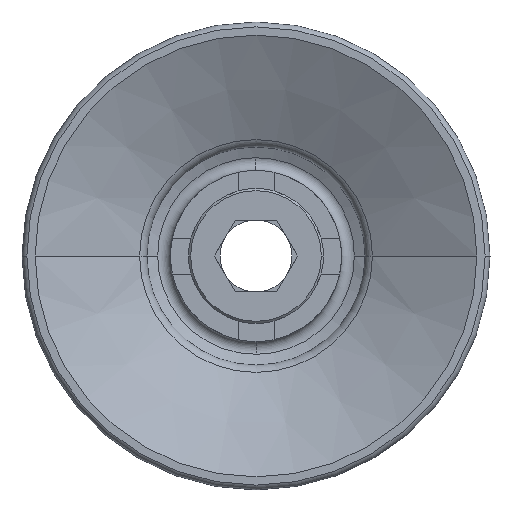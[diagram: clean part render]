
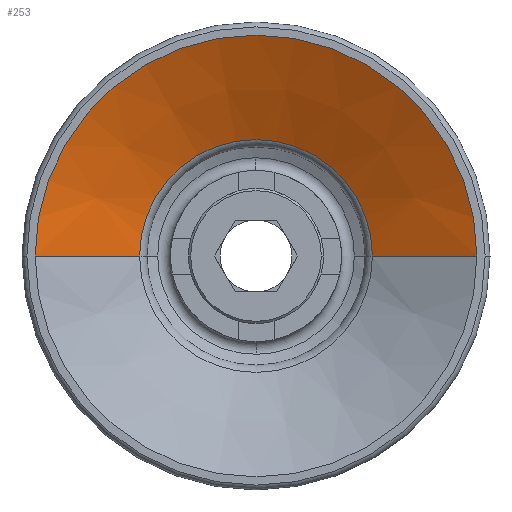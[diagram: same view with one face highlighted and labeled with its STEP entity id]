
A CAD part, front view. The second image highlights one B-rep face of the part: STEP entity #253.
In plain terms, the highlighted conical face has half-angle 62.925 degrees and reference radius 6.466 mm.
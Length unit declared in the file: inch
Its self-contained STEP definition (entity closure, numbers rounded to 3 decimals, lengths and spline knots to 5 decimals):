
#158 = AXIS2_PLACEMENT_3D ( 'NONE', #2629, #475, #2917 ) ;
#171 = DIRECTION ( 'NONE',  ( 1., 0., 0. ) ) ;
#218 = LINE ( 'NONE', #1621, #1737 ) ;
#253 = ADVANCED_FACE ( 'NONE', ( #4147 ), #1157, .F. ) ;
#304 = EDGE_CURVE ( 'NONE', #1558, #1459, #218, .T. ) ;
#398 = ORIENTED_EDGE ( 'NONE', *, *, #2449, .F. ) ;
#475 = DIRECTION ( 'NONE',  ( 0., 0., -1. ) ) ;
#484 = CIRCLE ( 'NONE', #2990, 0.48308 ) ;
#592 = CARTESIAN_POINT ( 'NONE',  ( 0.25458, 0., -0.41539 ) ) ;
#1157 = CONICAL_SURFACE ( 'NONE', #3017, 0.25458, 1.098 ) ;
#1459 = VERTEX_POINT ( 'NONE', #2771 ) ;
#1461 = DIRECTION ( 'NONE',  ( -0.89, 0., -0.455 ) ) ;
#1558 = VERTEX_POINT ( 'NONE', #592 ) ;
#1621 = CARTESIAN_POINT ( 'NONE',  ( 0.25458, 0., -0.41539 ) ) ;
#1693 = CARTESIAN_POINT ( 'NONE',  ( -0.25458, 0., -0.41539 ) ) ;
#1737 = VECTOR ( 'NONE', #3673, 39.37008 ) ;
#1774 = ORIENTED_EDGE ( 'NONE', *, *, #304, .T. ) ;
#1859 = CARTESIAN_POINT ( 'NONE',  ( 0., 0., -0.53219 ) ) ;
#1925 = EDGE_CURVE ( 'NONE', #1558, #3764, #3892, .T. ) ;
#2431 = EDGE_LOOP ( 'NONE', ( #3312, #1774, #398, #2444 ) ) ;
#2434 = CARTESIAN_POINT ( 'NONE',  ( 0., 0., -0.41539 ) ) ;
#2444 = ORIENTED_EDGE ( 'NONE', *, *, #3945, .F. ) ;
#2449 = EDGE_CURVE ( 'NONE', #2473, #1459, #484, .T. ) ;
#2473 = VERTEX_POINT ( 'NONE', #2556 ) ;
#2556 = CARTESIAN_POINT ( 'NONE',  ( -0.48308, 0., -0.53219 ) ) ;
#2629 = CARTESIAN_POINT ( 'NONE',  ( 0., 0., -0.41539 ) ) ;
#2771 = CARTESIAN_POINT ( 'NONE',  ( 0.48308, 0., -0.53219 ) ) ;
#2794 = LINE ( 'NONE', #3095, #4224 ) ;
#2917 = DIRECTION ( 'NONE',  ( 1., 0., 0. ) ) ;
#2990 = AXIS2_PLACEMENT_3D ( 'NONE', #1859, #3222, #171 ) ;
#3017 = AXIS2_PLACEMENT_3D ( 'NONE', #2434, #3800, #3730 ) ;
#3095 = CARTESIAN_POINT ( 'NONE',  ( -0.25458, 0., -0.41539 ) ) ;
#3222 = DIRECTION ( 'NONE',  ( 0., 0., 1. ) ) ;
#3312 = ORIENTED_EDGE ( 'NONE', *, *, #1925, .F. ) ;
#3673 = DIRECTION ( 'NONE',  ( 0.89, 0., -0.455 ) ) ;
#3730 = DIRECTION ( 'NONE',  ( -1., 0., 0. ) ) ;
#3764 = VERTEX_POINT ( 'NONE', #1693 ) ;
#3800 = DIRECTION ( 'NONE',  ( 0., 0., -1. ) ) ;
#3892 = CIRCLE ( 'NONE', #158, 0.25458 ) ;
#3945 = EDGE_CURVE ( 'NONE', #3764, #2473, #2794, .T. ) ;
#4147 = FACE_OUTER_BOUND ( 'NONE', #2431, .T. ) ;
#4224 = VECTOR ( 'NONE', #1461, 39.37008 ) ;
